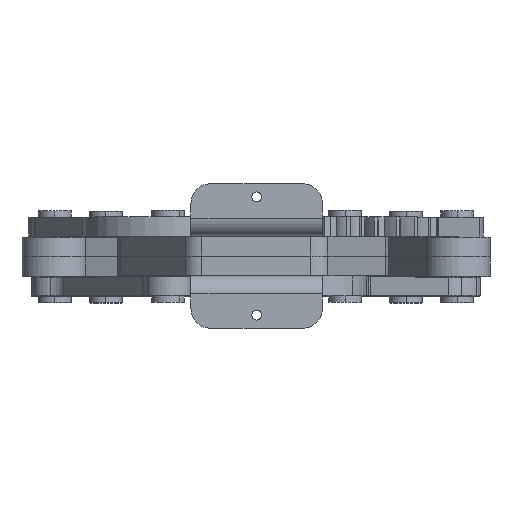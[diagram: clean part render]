
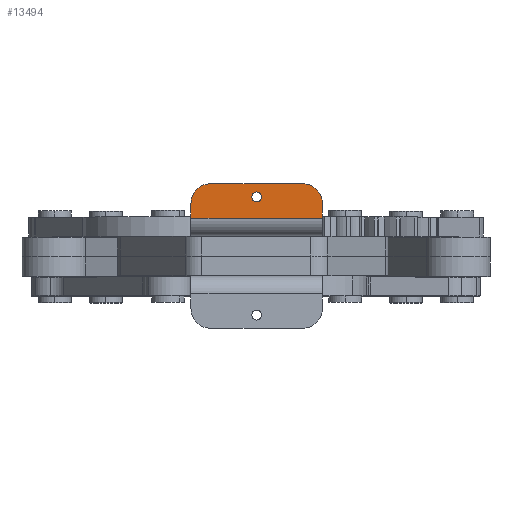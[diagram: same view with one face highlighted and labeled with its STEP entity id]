
A CAD part, top view. The second image highlights one B-rep face of the part: STEP entity #13494.
In plain terms, the highlighted planar face has unit normal (0, 0, 1) as drawn and (1, 0, 0) by its records, which use the part's own axes.
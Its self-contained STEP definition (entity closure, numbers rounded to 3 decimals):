
#3 = VERTEX_POINT ( 'NONE', #1983 ) ;
#167 = EDGE_CURVE ( 'NONE', #4671, #11145, #2274, .T. ) ;
#172 = ORIENTED_EDGE ( 'NONE', *, *, #11287, .T. ) ;
#229 = ORIENTED_EDGE ( 'NONE', *, *, #9366, .T. ) ;
#347 = CIRCLE ( 'NONE', #2750, 0.75 ) ;
#374 = DIRECTION ( 'NONE',  ( 0., 1., 0. ) ) ;
#387 = CARTESIAN_POINT ( 'NONE',  ( 12., 6., 0. ) ) ;
#528 = DIRECTION ( 'NONE',  ( 0., -1., 0. ) ) ;
#542 = VERTEX_POINT ( 'NONE', #7712 ) ;
#772 = PLANE ( 'NONE',  #8398 ) ;
#835 = CARTESIAN_POINT ( 'NONE',  ( 12., 0., 0. ) ) ;
#903 = ORIENTED_EDGE ( 'NONE', *, *, #9060, .T. ) ;
#910 = DIRECTION ( 'NONE',  ( 0., -1., 0. ) ) ;
#1063 = VECTOR ( 'NONE', #11998, 1000. ) ;
#1200 = EDGE_CURVE ( 'NONE', #2974, #542, #11624, .T. ) ;
#1335 = ORIENTED_EDGE ( 'NONE', *, *, #2916, .T. ) ;
#1394 = ORIENTED_EDGE ( 'NONE', *, *, #1200, .F. ) ;
#1821 = EDGE_CURVE ( 'NONE', #10199, #10894, #5916, .T. ) ;
#1935 = DIRECTION ( 'NONE',  ( 0., 0., 1. ) ) ;
#1938 = CARTESIAN_POINT ( 'NONE',  ( 12., 5., 7. ) ) ;
#1983 = CARTESIAN_POINT ( 'NONE',  ( 12., 8., 7. ) ) ;
#2004 = FACE_BOUND ( 'NONE', #10632, .T. ) ;
#2023 = DIRECTION ( 'NONE',  ( 0., -1., 0. ) ) ;
#2049 = EDGE_CURVE ( 'NONE', #10894, #3, #2485, .T. ) ;
#2274 = CIRCLE ( 'NONE', #5365, 0.75 ) ;
#2446 = CARTESIAN_POINT ( 'NONE',  ( 12., 2.75, 10. ) ) ;
#2485 = LINE ( 'NONE', #8691, #6489 ) ;
#2750 = AXIS2_PLACEMENT_3D ( 'NONE', #5201, #12564, #6239 ) ;
#2884 = EDGE_LOOP ( 'NONE', ( #3724, #229, #903, #1394, #172, #8076 ) ) ;
#2916 = EDGE_CURVE ( 'NONE', #11145, #4671, #347, .T. ) ;
#2974 = VERTEX_POINT ( 'NONE', #12362 ) ;
#3724 = ORIENTED_EDGE ( 'NONE', *, *, #2049, .T. ) ;
#4013 = VECTOR ( 'NONE', #374, 1000. ) ;
#4423 = LINE ( 'NONE', #8816, #1063 ) ;
#4671 = VERTEX_POINT ( 'NONE', #12155 ) ;
#4917 = CARTESIAN_POINT ( 'NONE',  ( 12., 5., -7. ) ) ;
#5010 = CIRCLE ( 'NONE', #12043, 3. ) ;
#5109 = FACE_OUTER_BOUND ( 'NONE', #2884, .T. ) ;
#5201 = CARTESIAN_POINT ( 'NONE',  ( 12., 6., 0. ) ) ;
#5365 = AXIS2_PLACEMENT_3D ( 'NONE', #387, #13274, #528 ) ;
#5916 = CIRCLE ( 'NONE', #7665, 3. ) ;
#6239 = DIRECTION ( 'NONE',  ( 0., -1., 0. ) ) ;
#6289 = DIRECTION ( 'NONE',  ( -1., 0., 0. ) ) ;
#6489 = VECTOR ( 'NONE', #13173, 1000. ) ;
#7451 = ORIENTED_EDGE ( 'NONE', *, *, #167, .T. ) ;
#7665 = AXIS2_PLACEMENT_3D ( 'NONE', #4917, #13545, #2023 ) ;
#7712 = CARTESIAN_POINT ( 'NONE',  ( 12., 2.75, 10. ) ) ;
#7795 = LINE ( 'NONE', #9797, #4013 ) ;
#8076 = ORIENTED_EDGE ( 'NONE', *, *, #1821, .T. ) ;
#8398 = AXIS2_PLACEMENT_3D ( 'NONE', #835, #6289, #1935 ) ;
#8691 = CARTESIAN_POINT ( 'NONE',  ( 12., 8., 0. ) ) ;
#8816 = CARTESIAN_POINT ( 'NONE',  ( 12., 0., 10. ) ) ;
#9060 = EDGE_CURVE ( 'NONE', #12261, #542, #4423, .T. ) ;
#9366 = EDGE_CURVE ( 'NONE', #3, #12261, #5010, .T. ) ;
#9797 = CARTESIAN_POINT ( 'NONE',  ( 12., 0., -10. ) ) ;
#10199 = VERTEX_POINT ( 'NONE', #13373 ) ;
#10436 = CARTESIAN_POINT ( 'NONE',  ( 12., 5., 10. ) ) ;
#10632 = EDGE_LOOP ( 'NONE', ( #1335, #7451 ) ) ;
#10894 = VERTEX_POINT ( 'NONE', #11817 ) ;
#11145 = VERTEX_POINT ( 'NONE', #11602 ) ;
#11287 = EDGE_CURVE ( 'NONE', #2974, #10199, #7795, .T. ) ;
#11374 = DIRECTION ( 'NONE',  ( 1., 0., 0. ) ) ;
#11602 = CARTESIAN_POINT ( 'NONE',  ( 12., 5.25, 0. ) ) ;
#11624 = LINE ( 'NONE', #2446, #13115 ) ;
#11764 = DIRECTION ( 'NONE',  ( 0., 0., 1. ) ) ;
#11817 = CARTESIAN_POINT ( 'NONE',  ( 12., 8., -7. ) ) ;
#11998 = DIRECTION ( 'NONE',  ( 0., -1., 0. ) ) ;
#12043 = AXIS2_PLACEMENT_3D ( 'NONE', #1938, #11374, #910 ) ;
#12155 = CARTESIAN_POINT ( 'NONE',  ( 12., 6.75, 0. ) ) ;
#12261 = VERTEX_POINT ( 'NONE', #10436 ) ;
#12362 = CARTESIAN_POINT ( 'NONE',  ( 12., 2.75, -10. ) ) ;
#12564 = DIRECTION ( 'NONE',  ( -1., 0., 0. ) ) ;
#13115 = VECTOR ( 'NONE', #11764, 1000. ) ;
#13173 = DIRECTION ( 'NONE',  ( 0., 0., 1. ) ) ;
#13274 = DIRECTION ( 'NONE',  ( -1., 0., 0. ) ) ;
#13373 = CARTESIAN_POINT ( 'NONE',  ( 12., 5., -10. ) ) ;
#13494 = ADVANCED_FACE ( 'NONE', ( #2004, #5109 ), #772, .F. ) ;
#13545 = DIRECTION ( 'NONE',  ( 1., 0., 0. ) ) ;
